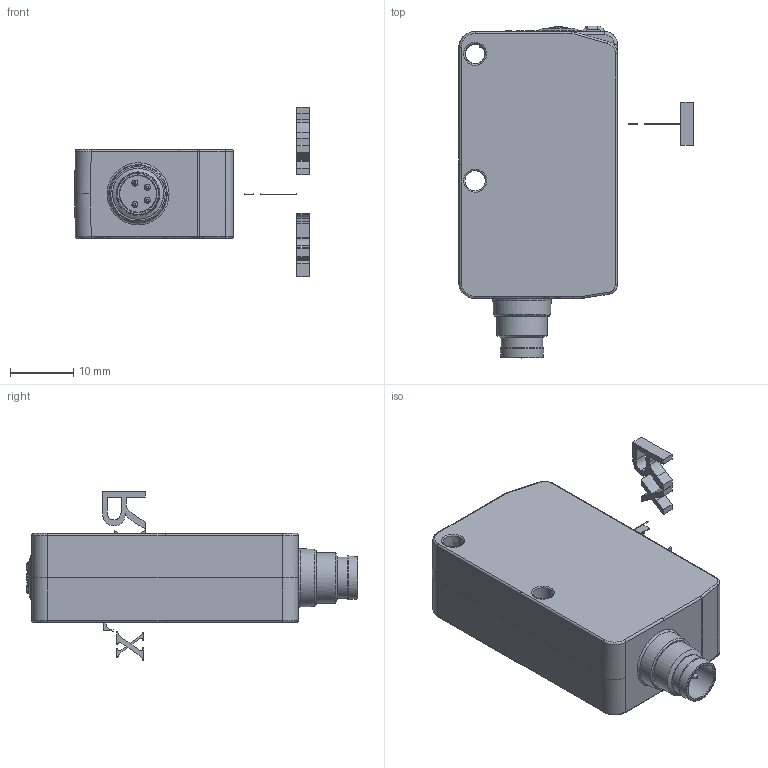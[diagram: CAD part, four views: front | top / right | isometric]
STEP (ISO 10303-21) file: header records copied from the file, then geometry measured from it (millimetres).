
FILE_DESCRIPTION(/* description */ (''),/* implementation_level */ '2;1');
FILE_NAME(/* name */ 'DSD-0144.stp',/* time_stamp */ '2020-09-22T11:20:16+02:00',/* author */ (''),/* organization */ (''),/* preprocessor_version */ 'ST-DEVELOPER v16.7',/* originating_system */ 'SIEMENS PLM Software NX 12.0',/* authorisation */ '');
FILE_SCHEMA (('AUTOMOTIVE_DESIGN { 1 0 10303 214 3 1 1 1 }'));
Length unit declared in the file: millimetre
Products named in the file (1): MBra20D017FA1tpp
Bounding box: 37 x 52.3 x 26.68 mm (x, y, z)
Volume: 14811.3 mm3; surface area: 5396.4 mm2
Topology: 7 solids, 9 shells, 515 faces, 1263 edges, 785 vertices
Faces by surface type: bspline 421, cylinder 34, plane 31, torus 21, sphere 6, cone 2
Full cylindrical faces by diameter (mm): 0.8 x1, 1.4 x2, 2.85 x1, 2.95 x1, 3.85 x1
Entity records: 19407 total; most frequent: CARTESIAN_POINT 9561, ORIENTED_EDGE 2374, EDGE_CURVE 1187, VERTEX_POINT 768, B_SPLINE_CURVE_WITH_KNOTS 684, EDGE_LOOP 599, DIRECTION 571, ADVANCED_FACE 515
